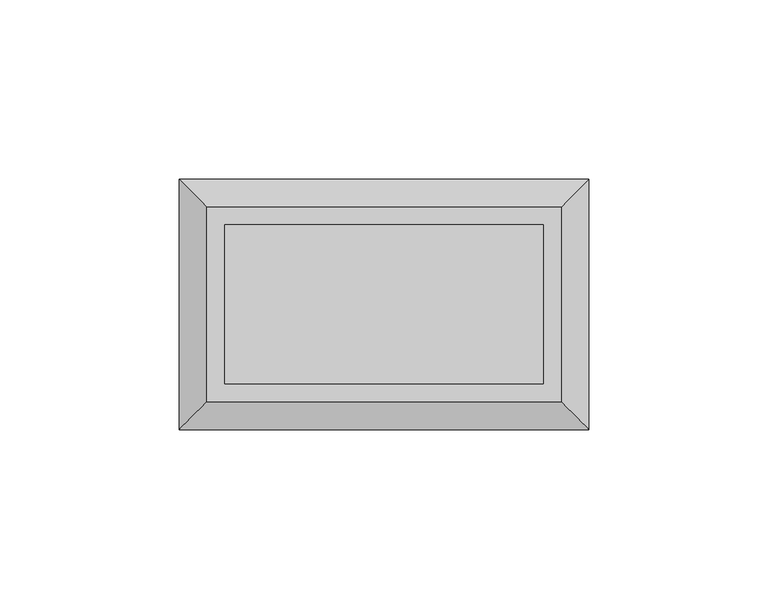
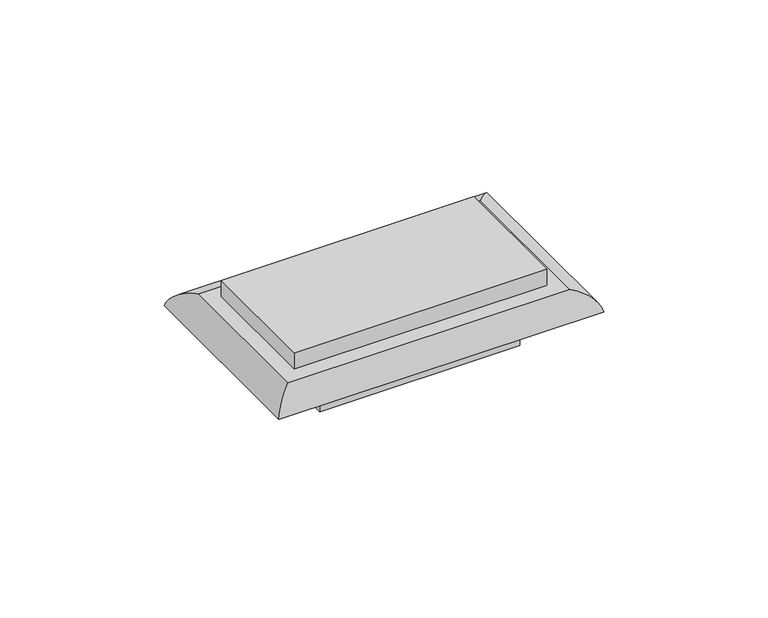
"""IFC4 building model written with IfcOpenShell, lengths in millimetres: proxy geometry, Cover_Plate-Wall-Pass_And_Seymour-Steel_Covers : Horizontal, Decorator."""

import ifcopenshell
import ifcopenshell.guid

model = None  # the IFC model being written
_history = None  # IfcOwnerHistory: only IFC2X3 demands one
_inside = {}  # id of a spatial element -> (the spatial element, [elements in it])
_under = {}  # id of a project, library or spatial element -> (it, [spatial elements below it])
_declared = {}  # id of a project -> (the project, [libraries it declares])
_typed = {}  # id of a type object -> (the type object, [elements of that type])
_made_of = {}  # id of a material, layer set ... -> (it, [elements and type objects made of it])


def new_model(schema):
    """Start an empty IFC model of exactly this schema.

    Asked for "IFC4X3", IfcOpenShell would pick the latest addendum, in which some entities
    have other attributes; the version numbers below select the first issue.
    IFC2X3 requires an IfcOwnerHistory on every rooted entity: one is made here for all.
    """
    global model, _history
    if schema == "IFC4X3":
        model = ifcopenshell.file(schema_version=(4, 3, 0, 0))
    else:
        model = ifcopenshell.file(schema=schema)
    _inside.clear()
    _under.clear()
    _declared.clear()
    _typed.clear()
    _made_of.clear()
    _history = None
    if model.schema == "IFC2X3":
        org = make("IfcOrganization", Name="unknown")
        user = make(
            "IfcPersonAndOrganization",
            ThePerson=make("IfcPerson", FamilyName="unknown"),
            TheOrganization=org,
        )
        app = make(
            "IfcApplication",
            ApplicationDeveloper=org,
            Version="unknown",
            ApplicationFullName="unknown",
            ApplicationIdentifier="unknown",
        )
        _history = make(
            "IfcOwnerHistory",
            OwningUser=user,
            OwningApplication=app,
            ChangeAction="ADDED",
            CreationDate=0,
        )
    return model


def make(cls, **values):
    """One entity of the class cls with the attributes given. An attribute that is None is left unset."""
    return model.create_entity(
        cls, **{name: value for name, value in values.items() if value is not None}
    )


def rooted(cls, **values):
    """An entity with a GlobalId (a new one), such as an element, a storey or a relation."""
    return make(cls, GlobalId=ifcopenshell.guid.new(), OwnerHistory=_history, **values)


def si_unit(unit_type, name, prefix=None):
    """IfcSIUnit, for example si_unit("LENGTHUNIT", "METRE", prefix="MILLI")."""
    return make("IfcSIUnit", UnitType=unit_type, Prefix=prefix, Name=name)


def assignment(units):
    """IfcUnitAssignment: the units of a project."""
    return None if units is None else make("IfcUnitAssignment", Units=units)


def point(xyz):
    """IfcCartesianPoint."""
    return None if xyz is None else make("IfcCartesianPoint", Coordinates=xyz)


def direction(xyz):
    """IfcDirection."""
    return None if xyz is None else make("IfcDirection", DirectionRatios=xyz)


def frame(location, z_axis=None, x_axis=None):
    """IfcAxis2Placement3D, a coordinate frame: its origin and axes. An axis left out is left unset."""
    return make(
        "IfcAxis2Placement3D",
        Location=point(location),
        Axis=direction(z_axis),
        RefDirection=direction(x_axis),
    )


def origin():
    """The frame at (0, 0, 0) with its axes left unset."""
    return frame((0.0, 0.0, 0.0))


def place(relative_to, where):
    """IfcLocalPlacement: puts the frame where relative to a parent placement (None: the world)."""
    return make(
        "IfcLocalPlacement", PlacementRelTo=relative_to, RelativePlacement=where
    )


def context(
    kind, dimensions, precision=None, world=None, true_north=None, identifier=None
):
    """IfcGeometricRepresentationContext, for example the 3D "Model" context."""
    return make(
        "IfcGeometricRepresentationContext",
        ContextIdentifier=identifier,
        ContextType=kind,
        CoordinateSpaceDimension=dimensions,
        Precision=precision,
        WorldCoordinateSystem=world,
        TrueNorth=true_north,
    )


def project(units=None, contexts=None):
    """IfcProject with its units and contexts."""
    return rooted(
        "IfcProject",
        Name="project",
        RepresentationContexts=contexts,
        UnitsInContext=assignment(units),
    )


def spatial(cls, under=None, at=None, **own):
    """A site, building, storey or space (cls), placed at a placement, below another one or the project."""
    s = rooted(cls, ObjectPlacement=at, **own)
    if under is not None:
        _under.setdefault(under.id(), (under, []))[1].append(s)
    return s


def polyline(points):
    """IfcPolyline through the points."""
    return make("IfcPolyline", Points=[point(p) for p in points])


def ellipse_curve(where, semi_axis1, semi_axis2):
    """IfcEllipse in the frame where."""
    return make(
        "IfcEllipse", Position=where, SemiAxis1=semi_axis1, SemiAxis2=semi_axis2
    )


def outline(outer, holes=None, kind="AREA"):
    """IfcArbitraryClosedProfileDef: a profile drawn as a closed curve; with holes, ...WithVoids."""
    if holes is None:
        return make("IfcArbitraryClosedProfileDef", ProfileType=kind, OuterCurve=outer)
    return make(
        "IfcArbitraryProfileDefWithVoids",
        ProfileType=kind,
        OuterCurve=outer,
        InnerCurves=holes,
    )


def extrude(swept, where, along, depth):
    """IfcExtrudedAreaSolid: the profile swept, set in the frame where, extruded along a direction by depth."""
    return make(
        "IfcExtrudedAreaSolid",
        SweptArea=swept,
        Position=where,
        ExtrudedDirection=direction(along),
        Depth=depth,
    )


def shape(context_of_items, identifier, shape_type, items):
    """IfcShapeRepresentation: the items that make up one representation, for example the "Body"."""
    return make(
        "IfcShapeRepresentation",
        ContextOfItems=context_of_items,
        RepresentationIdentifier=identifier,
        RepresentationType=shape_type,
        Items=items,
    )


def source(mapping_origin, context_of_items, identifier, shape_type, items):
    """IfcRepresentationMap: a shape defined once, which mapped items show again and again."""
    return make(
        "IfcRepresentationMap",
        MappingOrigin=mapping_origin,
        MappedRepresentation=shape(context_of_items, identifier, shape_type, items),
    )


def transform(
    local_origin,
    x_axis=None,
    y_axis=None,
    z_axis=None,
    scale=None,
    scale2=None,
    scale3=None,
    uniform=True,
):
    """IfcCartesianTransformationOperator3D, or its non-uniform kind. x_axis, y_axis, z_axis: its Axis1, 2, 3."""
    if uniform:
        return make(
            "IfcCartesianTransformationOperator3D",
            Axis1=direction(x_axis),
            Axis2=direction(y_axis),
            LocalOrigin=point(local_origin),
            Scale=scale,
            Axis3=direction(z_axis),
        )
    return make(
        "IfcCartesianTransformationOperator3DnonUniform",
        Axis1=direction(x_axis),
        Axis2=direction(y_axis),
        LocalOrigin=point(local_origin),
        Scale=scale,
        Axis3=direction(z_axis),
        Scale2=scale2,
        Scale3=scale3,
    )


def mapped(mapping_source, mapping_target):
    """IfcMappedItem: shows the shape of a source again, moved by a transform."""
    return make(
        "IfcMappedItem", MappingSource=mapping_source, MappingTarget=mapping_target
    )


def made_of(thing, what):
    """Note that an element or type object is made of a material, layer set ...; save() writes the relation."""
    if what is not None:
        _made_of.setdefault(what.id(), (what, []))[1].append(thing)
    return thing


def element(
    cls,
    number,
    at=None,
    inside=None,
    cuts=None,
    type_object=None,
    material=None,
    context=None,
    identifier="Body",
    shape_type=None,
    held_by="IfcProductDefinitionShape",
    body=None,
    shapes=None,
    **own,
):
    """One element of the class cls, such as IfcWall. Its Tag is "e" and its number.

    at: its placement. inside: the storey or other place that contains it. cuts: it is an
    opening in that element (IfcRelVoidsElement). A single representation is given by context,
    identifier, shape_type and body (its items); several are given by shapes. held_by: the class
    of the entity that holds the representations. save() writes the other relations.
    """
    e = rooted(cls, Tag="e%d" % number, ObjectPlacement=at, **own)
    if body is not None:
        shapes = [shape(context, identifier, shape_type, body)]
    if shapes is not None:
        e.Representation = make(held_by, Representations=shapes)
    if inside is not None:
        _inside.setdefault(inside.id(), (inside, []))[1].append(e)
    if cuts is not None:
        rooted(
            "IfcRelVoidsElement", RelatingBuildingElement=cuts, RelatedOpeningElement=e
        )
    if type_object is not None:
        _typed.setdefault(type_object.id(), (type_object, []))[1].append(e)
    return made_of(e, material)


def aggregate(whole, parts):
    """IfcRelAggregates: a whole, such as a stair, and the parts it consists of."""
    return rooted("IfcRelAggregates", RelatingObject=whole, RelatedObjects=parts)


def save(model, path):
    """Write the relations noted so far, then the file.

    IfcRelAggregates (storeys below a building ...), IfcRelContainedInSpatialStructure (elements
    in a storey), IfcRelDefinesByType, IfcRelAssociatesMaterial and IfcRelDeclares: one each for
    every whole, place, type object, material and project.
    """
    for whole, parts in _under.values():
        aggregate(whole, parts)
    for where, things in _inside.values():
        rooted(
            "IfcRelContainedInSpatialStructure",
            RelatedElements=things,
            RelatingStructure=where,
        )
    for kind, things in _typed.values():
        rooted("IfcRelDefinesByType", RelatedObjects=things, RelatingType=kind)
    for what, things in _made_of.values():
        rooted("IfcRelAssociatesMaterial", RelatedObjects=things, RelatingMaterial=what)
    for by, libraries in _declared.values():
        rooted("IfcRelDeclares", RelatingContext=by, RelatedDefinitions=libraries)
    model.write(path)


def plane_surface(at):
    """IfcPlane: the flat surface through the origin of the frame at, square to its z axis."""
    return make("IfcPlane", Position=at)


def cylinder_surface(at, radius):
    """IfcCylindricalSurface: all points at the distance radius from the z axis of the frame at."""
    return make("IfcCylindricalSurface", Position=at, Radius=radius)


def advanced_brep(points, edges, surfaces, faces):
    """IfcAdvancedBrep: a solid bounded by faces that lie on surfaces and meet in shared edges.

    An edge is (start, end): straight between two places in points (the first is 0);
    or (start, end, curve); or (start, end, curve, False) where it runs against its curve.
    A face is (place in surfaces, loops), or (place, loops, False) where it looks against
    its surface's normal. A loop lists edges by number (the first is 1), with a minus sign
    where the edge is run from its end to its start. The first loop is the outer one.
    """
    corners = [point(p) for p in points]
    vertices = [make("IfcVertexPoint", VertexGeometry=c) for c in corners]
    made = []
    for start, end, *more in edges:
        made.append(
            make(
                "IfcEdgeCurve",
                EdgeStart=vertices[start],
                EdgeEnd=vertices[end],
                EdgeGeometry=more[0] if more else make("IfcPolyline", Points=[corners[start], corners[end]]),
                SameSense=more[1] if len(more) > 1 else True,
            )
        )
    hull = []
    for where, loops, *sense in faces:
        bounds = []
        for j, loop in enumerate(loops):
            ring = [make("IfcOrientedEdge", EdgeElement=made[abs(k) - 1], Orientation=k > 0) for k in loop]
            bounds.append(
                make(
                    "IfcFaceOuterBound" if j == 0 else "IfcFaceBound",
                    Bound=make("IfcEdgeLoop", EdgeList=ring),
                    Orientation=True,
                )
            )
        hull.append(make("IfcAdvancedFace", Bounds=bounds, FaceSurface=surfaces[where], SameSense=sense[0] if sense else True))
    return make("IfcAdvancedBrep", Outer=make("IfcClosedShell", CfsFaces=hull))


def electrical_fixtures_830e8c85(model_context):
    return source(origin(), model_context, "Body", "SolidModel", [
        advanced_brep(
        [(-49.53, -27.305, 6.35), (-57.15, -34.925, 0.0), (57.15, -34.925, 0.0), (49.53, -27.305, 6.35), (-49.53, 27.305, 6.35), (-57.15, 34.925, 0.0), (49.53, 27.305, 6.35), (57.15, 34.925, 0.0)],
        [
            (0, 1, ellipse_curve(frame((-49.53, -27.305, -1.397), z_axis=(0.7071067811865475, -0.7071067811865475, 0.0), x_axis=(-0.7071067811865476, -0.7071067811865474, 0.0)), 10.9559125, 7.747)),
            (1, 2),
            (2, 3, ellipse_curve(frame((49.53, -27.305, -1.397), z_axis=(-0.7071067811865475, -0.7071067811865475, 0.0), x_axis=(-0.7071067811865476, 0.7071067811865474, 0.0)), 10.9559125, 7.747)),
            (3, 0),
            (0, 4),
            (4, 5, ellipse_curve(frame((-49.53, 27.305, -1.397), z_axis=(-0.7071067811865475, -0.7071067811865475, 0.0), x_axis=(-0.7071067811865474, 0.7071067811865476, 0.0)), 10.9559125, 7.747)),
            (5, 1),
            (4, 6),
            (6, 7, ellipse_curve(frame((49.53, 27.305, -1.397), z_axis=(-0.7071067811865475, 0.7071067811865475, 0.0), x_axis=(0.7071067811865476, 0.7071067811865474, 0.0)), 10.9559125, 7.747)),
            (7, 5),
            (2, 7),
            (6, 3),
        ],
        [
            cylinder_surface(frame((57.15, -27.305, -1.397), z_axis=(-1.0, 0.0, 0.0), x_axis=(0.0, -1.0, 0.0)), 7.747),
            cylinder_surface(frame((-49.53, -34.925, -1.397), z_axis=(0.0, 1.0, 0.0), x_axis=(-1.0, 0.0, 0.0)), 7.747),
            cylinder_surface(frame((-57.15, 27.305, -1.397), z_axis=(1.0, 0.0, 0.0), x_axis=(0.0, 1.0, 0.0)), 7.747),
            cylinder_surface(frame((49.53, 34.925, -1.397), z_axis=(0.0, -1.0, 0.0), x_axis=(1.0, 0.0, 0.0)), 7.747),
            plane_surface(frame((-57.15, 34.925, 6.35), z_axis=(0.0, 0.0, 1.0), x_axis=(-1.0, 0.0, 0.0))),
            plane_surface(frame((-57.15, 34.925, 0.0), z_axis=(0.0, 0.0, -1.0), x_axis=(1.0, 0.0, 0.0))),
        ],
        [
            (0, [[1, 2, 3, 4]]),
            (1, [[-1, 5, 6, 7]]),
            (2, [[-6, 8, 9, 10]]),
            (3, [[-3, 11, -9, 12]]),
            (4, [[-4, -12, -8, -5]]),
            (5, [[-2, -7, -10, -11]]),
        ],
    ),
        extrude(outline(polyline([(44.45, 22.225), (44.45, -22.225), (-44.45, -22.225), (-44.45, 22.225), (44.45, 22.225)])), frame((0.0, 0.0, 6.35), z_axis=(0.0, 0.0, 1.0), x_axis=(1.0, 0.0, 0.0)), (0.0, 0.0, 1.0), 6.35),
        extrude(outline(polyline([(35.179, 21.844), (35.179, -21.844), (-35.179, -21.844), (-35.179, 21.844), (35.179, 21.844)])), frame((0.0, 0.0, -12.7), z_axis=(0.0, 0.0, 1.0), x_axis=(1.0, 0.0, 0.0)), (0.0, 0.0, 1.0), 12.7),
    ])


if __name__ == "__main__":
    model = new_model("IFC4")
    model_context = context("Model", 3, world=origin())
    ifc_project = project(units=[si_unit("LENGTHUNIT", "METRE", prefix="MILLI")], contexts=[model_context])
    site = spatial("IfcSite", under=ifc_project)
    building = spatial("IfcBuilding", under=site)
    placement = place(None, origin())
    electrical_fixtures_shape = electrical_fixtures_830e8c85(model_context)
    element("IfcBuildingElementProxy", 1, Name="Cover_Plate-Wall-Pass_And_Seymour-Steel_Covers : Horizontal, Decorator", ObjectType="Cover_Plate-Wall-Pass_And_Seymour-Steel_Covers : Horizontal, Decorator", at=placement, inside=building, context=model_context, shape_type="MappedRepresentation", body=[
        mapped(electrical_fixtures_shape, transform((0.0, 0.0, 0.0), x_axis=(1.0, 0.0, 0.0), y_axis=(0.0, 1.0, 0.0), z_axis=(0.0, 0.0, 1.0))),
    ])
    save(model, "model.ifc")
